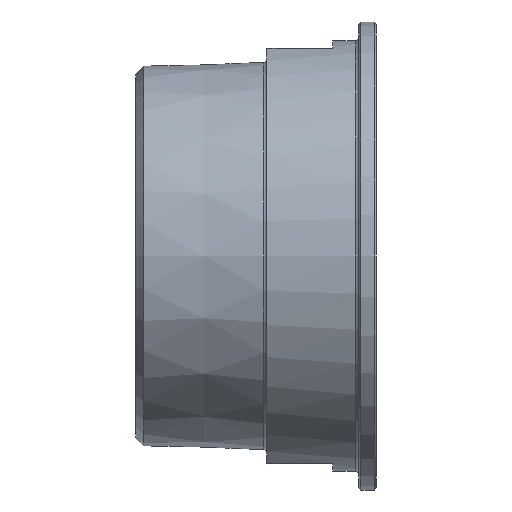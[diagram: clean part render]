
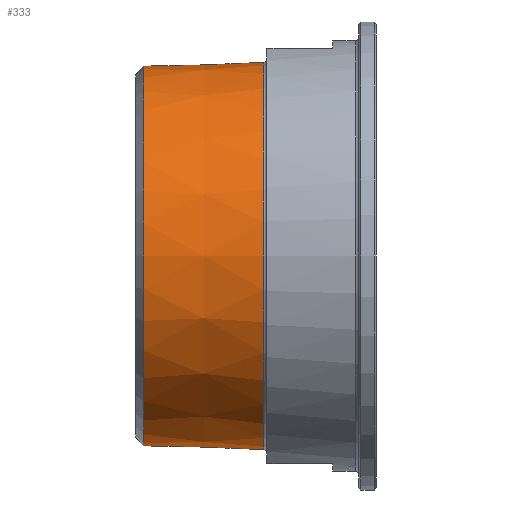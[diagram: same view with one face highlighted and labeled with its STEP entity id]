
A CAD part, front view. The second image highlights one B-rep face of the part: STEP entity #333.
In plain terms, the highlighted conical face has half-angle 1.8 degrees and reference radius 43.821 mm.
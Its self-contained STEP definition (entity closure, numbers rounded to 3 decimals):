
#48=FACE_OUTER_BOUND('',#72,.T.);
#72=EDGE_LOOP('',(#288,#289,#290,#291,#292,#293));
#91=LINE('',#613,#108);
#108=VECTOR('',#504,43.821);
#135=CIRCLE('',#396,44.268);
#137=CIRCLE('',#398,44.268);
#138=CIRCLE('',#400,43.407);
#139=CIRCLE('',#401,43.407);
#167=VERTEX_POINT('',#606);
#168=VERTEX_POINT('',#607);
#169=VERTEX_POINT('',#612);
#170=VERTEX_POINT('',#614);
#209=EDGE_CURVE('',#167,#168,#135,.T.);
#211=EDGE_CURVE('',#168,#167,#137,.T.);
#212=EDGE_CURVE('',#167,#169,#91,.T.);
#213=EDGE_CURVE('',#170,#169,#138,.T.);
#214=EDGE_CURVE('',#169,#170,#139,.T.);
#288=ORIENTED_EDGE('',*,*,#209,.F.);
#289=ORIENTED_EDGE('',*,*,#212,.T.);
#290=ORIENTED_EDGE('',*,*,#213,.F.);
#291=ORIENTED_EDGE('',*,*,#214,.F.);
#292=ORIENTED_EDGE('',*,*,#212,.F.);
#293=ORIENTED_EDGE('',*,*,#211,.F.);
#316=CONICAL_SURFACE('',#399,43.821,0.031);
#333=ADVANCED_FACE('',(#48),#316,.T.);
#396=AXIS2_PLACEMENT_3D('',#608,#496,#497);
#398=AXIS2_PLACEMENT_3D('',#610,#500,#501);
#399=AXIS2_PLACEMENT_3D('',#611,#502,#503);
#400=AXIS2_PLACEMENT_3D('',#615,#505,#506);
#401=AXIS2_PLACEMENT_3D('',#616,#507,#508);
#496=DIRECTION('center_axis',(1.,0.,0.));
#497=DIRECTION('ref_axis',(0.,-1.,0.));
#500=DIRECTION('center_axis',(1.,0.,0.));
#501=DIRECTION('ref_axis',(0.,-1.,0.));
#502=DIRECTION('center_axis',(1.,0.,0.));
#503=DIRECTION('ref_axis',(0.,1.,0.));
#504=DIRECTION('',(-1.,0.031,0.));
#505=DIRECTION('center_axis',(-1.,0.,0.));
#506=DIRECTION('ref_axis',(0.,-1.,0.));
#507=DIRECTION('center_axis',(-1.,0.,0.));
#508=DIRECTION('ref_axis',(0.,-1.,0.));
#606=CARTESIAN_POINT('',(-25.775,-44.268,0.));
#607=CARTESIAN_POINT('',(-25.775,0.,44.268));
#608=CARTESIAN_POINT('Origin',(-25.775,0.,0.));
#610=CARTESIAN_POINT('Origin',(-25.775,0.,0.));
#611=CARTESIAN_POINT('Origin',(-40.,0.,0.));
#612=CARTESIAN_POINT('',(-53.201,-43.407,0.));
#613=CARTESIAN_POINT('',(-40.,-43.821,0.));
#614=CARTESIAN_POINT('',(-53.201,43.407,0.));
#615=CARTESIAN_POINT('Origin',(-53.201,0.,0.));
#616=CARTESIAN_POINT('Origin',(-53.201,0.,0.));
